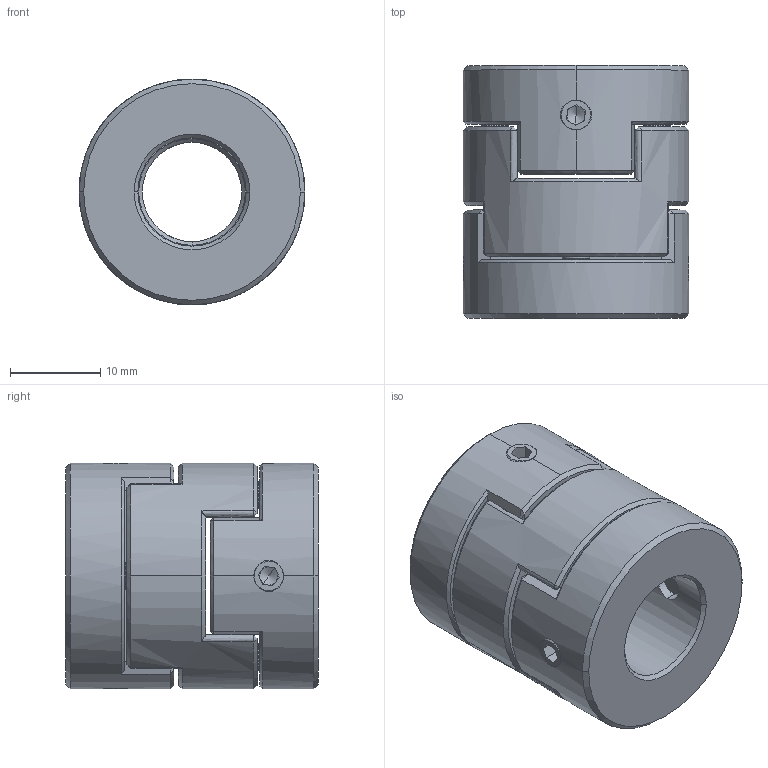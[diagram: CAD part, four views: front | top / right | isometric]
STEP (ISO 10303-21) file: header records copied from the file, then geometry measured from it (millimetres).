
FILE_DESCRIPTION (( 'STEP AP203' ), '1' );
FILE_NAME ('LZ-D-D25L28-11-12.STEP', '2021-10-30T02:23:01', ( '' ), ( '' ), 'SwSTEP 2.0', 'SolidWorks 2018', '' );
FILE_SCHEMA (( 'CONFIG_CONTROL_DESIGN' ));
Length unit declared in the file: millimetre
Products named in the file (1): LZ-D-D25L28-11-12
Bounding box: 25 x 28 x 25 mm (x, y, z)
Volume: 10301.8 mm3; surface area: 5518.1 mm2
Topology: 1 solids, 1 shells, 219 faces, 580 edges, 352 vertices
Faces by surface type: plane 89, cone 54, bspline 50, cylinder 26
Entity records: 9950 total; most frequent: CARTESIAN_POINT 4983, ORIENTED_EDGE 1144, DIRECTION 842, EDGE_CURVE 572, VERTEX_POINT 352, AXIS2_PLACEMENT_3D 306, EDGE_LOOP 234, VECTOR 230
